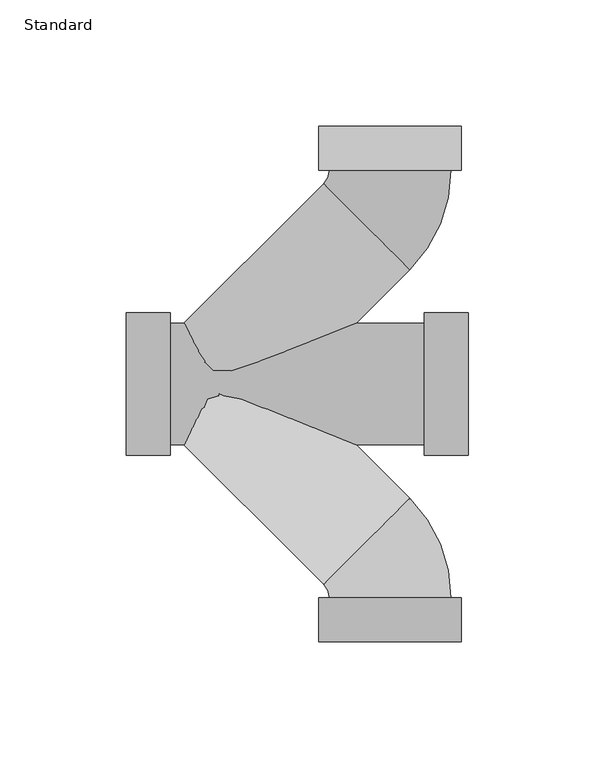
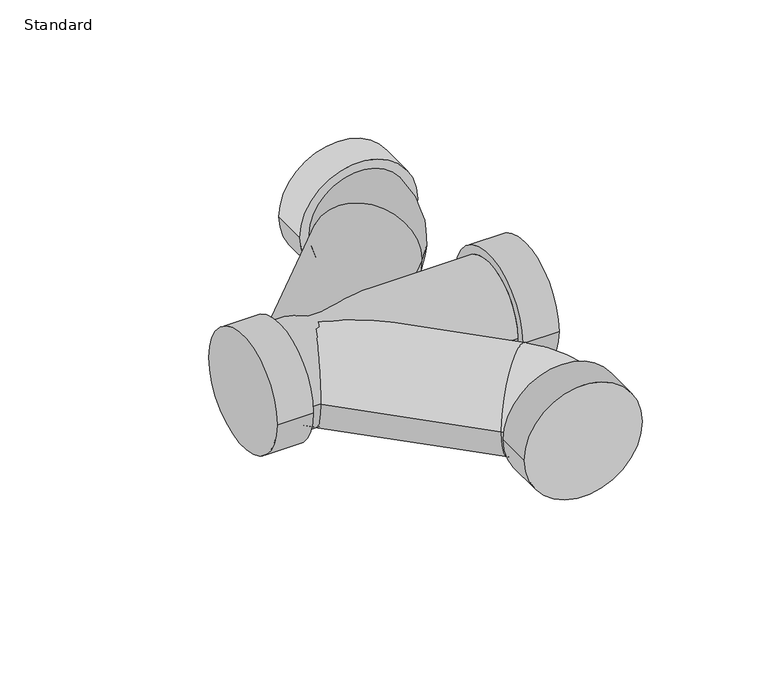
"""IFC4 building model written with IfcOpenShell, lengths in millimetres: pipe fitting geometry, GES Wye Combination with 8th Bend Double - PVC - Sch 40 - DWV : Standard."""

from ifc_helpers import new_model, si_unit, point, frame, origin, place, context, project, spatial, circle_curve, ellipse_curve, trimmed, source, transform, mapped, element, save
from ifc_brep_helpers import plane_surface, cylinder_surface, revolved_surface, advanced_brep


def standard_01f99a9c(model_context):
    return source(origin(), model_context, "Body", "AdvancedBrep", [
        advanced_brep(
        [(28.2829, 84.5312, 0.0), (-28.2829, 84.5312, 0.0), (28.2829, 101.981, 0.0), (-28.2829, 101.981, 0.0)],
        [
            (0, 1, circle_curve(frame((0.0, 84.5312, 0.0), z_axis=(0.0, -1.0, 0.0), x_axis=(-1.0, 0.0, 0.0)), 28.2829)),
            (1, 0, circle_curve(frame((0.0, 84.5312, 0.0), z_axis=(0.0, -1.0, 0.0), x_axis=(-1.0, 0.0, 0.0)), 28.2829)),
            (2, 3, circle_curve(frame((0.0, 101.981, 0.0), z_axis=(0.0, 1.0, 0.0), x_axis=(-1.0, 0.0, 0.0)), 28.2829)),
            (3, 2, circle_curve(frame((0.0, 101.981, 0.0), z_axis=(0.0, 1.0, 0.0), x_axis=(-1.0, 0.0, 0.0)), 28.2829)),
            (0, 2),
            (3, 1),
        ],
        [
            plane_surface(frame((0.0, 84.5312, 0.0), z_axis=(0.0, -1.0, 0.0), x_axis=(0.0, 0.0, 1.0))),
            plane_surface(frame((0.0, 101.981, 0.0), z_axis=(0.0, 1.0, 0.0), x_axis=(0.0, 0.0, 1.0))),
            cylinder_surface(frame((0.0, 84.5312, 0.0), z_axis=(0.0, -1.0, 0.0), x_axis=(-1.0, 0.0, 0.0)), 28.2829),
        ],
        [
            (0, [[1, 2]]),
            (1, [[3, 4]]),
            (2, [[-1, 5, -4, 6]]),
            (2, [[-2, -6, -3, -5]]),
        ],
    ),
        advanced_brep(
        [(-28.2829, -84.5312, 0.0), (28.2829, -84.5312, 0.0), (-28.2829, -101.981, 0.0), (28.2829, -101.981, 0.0)],
        [
            (0, 1, circle_curve(frame((0.0, -84.5312, 0.0), z_axis=(0.0, 1.0, 0.0), x_axis=(1.0, 0.0, 0.0)), 28.2829)),
            (1, 0, circle_curve(frame((0.0, -84.5312, 0.0), z_axis=(0.0, 1.0, 0.0), x_axis=(1.0, 0.0, 0.0)), 28.2829)),
            (2, 3, circle_curve(frame((0.0, -101.981, 0.0), z_axis=(0.0, -1.0, 0.0), x_axis=(1.0, 0.0, 0.0)), 28.2829)),
            (3, 2, circle_curve(frame((0.0, -101.981, 0.0), z_axis=(0.0, -1.0, 0.0), x_axis=(1.0, 0.0, 0.0)), 28.2829)),
            (0, 2),
            (3, 1),
        ],
        [
            plane_surface(frame((0.0, -84.5312, 0.0), z_axis=(0.0, 1.0, 0.0), x_axis=(0.0, 0.0, 1.0))),
            plane_surface(frame((0.0, -101.981, 0.0), z_axis=(0.0, -1.0, 0.0), x_axis=(0.0, 0.0, 1.0))),
            cylinder_surface(frame((0.0, -84.5312, 0.0), z_axis=(0.0, 1.0, 0.0), x_axis=(1.0, 0.0, 0.0)), 28.2829),
        ],
        [
            (0, [[1, 2]]),
            (1, [[3, 4]]),
            (2, [[-1, 5, -4, 6]]),
            (2, [[-2, -6, -3, -5]]),
        ],
    ),
        advanced_brep(
        [(-86.9188, -24.13, 0.0), (13.4874, -24.13, 0.0), (13.4874, 24.13, 0.0), (-86.9188, 24.13, 0.0), (-104.3686, -28.2829, 0.0), (-104.3686, 28.2829, 0.0), (-86.9188, -28.2829, 0.0), (-86.9188, 28.2829, 0.0), (13.4874, -28.2829, 0.0), (13.4874, 28.2829, 0.0), (30.9372, -28.2829, 0.0), (30.9372, 28.2829, 0.0)],
        [
            (0, 1),
            (1, 2, circle_curve(frame((13.4874, 0.0, 0.0), z_axis=(-1.0, 0.0, 0.0), x_axis=(0.0, 1.0, 0.0)), 24.13)),
            (2, 3),
            (3, 0, circle_curve(frame((-86.9188, 0.0, 0.0), z_axis=(1.0, 0.0, 0.0), x_axis=(0.0, 1.0, 0.0)), 24.13)),
            (0, 3, circle_curve(frame((-86.9188, 0.0, 0.0), z_axis=(1.0, 0.0, 0.0), x_axis=(0.0, 1.0, 0.0)), 24.13)),
            (2, 1, circle_curve(frame((13.4874, 0.0, 0.0), z_axis=(-1.0, 0.0, 0.0), x_axis=(0.0, 1.0, 0.0)), 24.13)),
            (4, 5, circle_curve(frame((-104.3686, 0.0, 0.0), z_axis=(-1.0, 0.0, 0.0), x_axis=(0.0, 1.0, 0.0)), 28.2829)),
            (5, 4, circle_curve(frame((-104.3686, 0.0, 0.0), z_axis=(-1.0, 0.0, 0.0), x_axis=(0.0, 1.0, 0.0)), 28.2829)),
            (6, 7, circle_curve(frame((-86.9188, 0.0, 0.0), z_axis=(1.0, 0.0, 0.0), x_axis=(0.0, 1.0, 0.0)), 28.2829)),
            (7, 6, circle_curve(frame((-86.9188, 0.0, 0.0), z_axis=(1.0, 0.0, 0.0), x_axis=(0.0, 1.0, 0.0)), 28.2829)),
            (4, 6),
            (7, 5),
            (8, 9, circle_curve(frame((13.4874, 0.0, 0.0), z_axis=(-1.0, 0.0, 0.0), x_axis=(0.0, 1.0, 0.0)), 28.2829)),
            (9, 8, circle_curve(frame((13.4874, 0.0, 0.0), z_axis=(-1.0, 0.0, 0.0), x_axis=(0.0, 1.0, 0.0)), 28.2829)),
            (10, 11, circle_curve(frame((30.9372, 0.0, 0.0), z_axis=(1.0, 0.0, 0.0), x_axis=(0.0, 1.0, 0.0)), 28.2829)),
            (11, 10, circle_curve(frame((30.9372, 0.0, 0.0), z_axis=(1.0, 0.0, 0.0), x_axis=(0.0, 1.0, 0.0)), 28.2829)),
            (8, 10),
            (11, 9),
        ],
        [
            cylinder_surface(frame((-86.9188, 0.0, 0.0), z_axis=(-1.0, 0.0, 0.0), x_axis=(0.0, 1.0, 0.0)), 24.13),
            plane_surface(frame((-104.3686, 0.0, 0.0), z_axis=(-1.0, 0.0, 0.0), x_axis=(0.0, 0.0, 1.0))),
            plane_surface(frame((-86.9188, 0.0, 0.0), z_axis=(1.0, 0.0, 0.0), x_axis=(0.0, 0.0, 1.0))),
            cylinder_surface(frame((-104.3686, 0.0, 0.0), z_axis=(-1.0, 0.0, 0.0), x_axis=(0.0, 1.0, 0.0)), 28.2829),
            plane_surface(frame((13.4874, 0.0, 0.0), z_axis=(-1.0, 0.0, 0.0), x_axis=(0.0, 0.0, 1.0))),
            plane_surface(frame((30.9372, 0.0, 0.0), z_axis=(1.0, 0.0, 0.0), x_axis=(0.0, 0.0, 1.0))),
            cylinder_surface(frame((13.4874, 0.0, 0.0), z_axis=(-1.0, 0.0, 0.0), x_axis=(0.0, 1.0, 0.0)), 28.2829),
        ],
        [
            (0, [[1, 2, 3, 4]]),
            (0, [[-1, 5, -3, 6]]),
            (1, [[7, 8]]),
            (2, [[9, 10], [-4, -5]]),
            (3, [[-7, 11, -10, 12]]),
            (3, [[-8, -12, -9, -11]]),
            (4, [[13, 14], [-2, -6]]),
            (5, [[15, 16]]),
            (6, [[-13, 17, -16, 18]]),
            (6, [[-14, -18, -15, -17]]),
        ],
    ),
        advanced_brep(
        [(-24.13, 84.5312, 0.0), (24.13, 84.5312, 0.0), (7.848681, 45.224619, 0.0), (-26.2762922, 79.3495922, 0.0), (-88.5633978, 17.0624866, 0.0), (-54.4384245, -17.0624866, 0.0)],
        [
            (0, 1, circle_curve(frame((0.0, 84.5312, 0.0), z_axis=(-1.7109647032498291e-12, 1.0, 0.0), x_axis=(1.0, 1.7109647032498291e-12, 0.0)), 24.13)),
            (1, 0, circle_curve(frame((0.0, 84.5312, 0.0), z_axis=(-1.7109647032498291e-12, 1.0, 0.0), x_axis=(1.0, 1.7109647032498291e-12, 0.0)), 24.13)),
            (2, 1, circle_curve(frame((-31.4579, 84.5312, 0.0), z_axis=(0.0, 0.0, 1.0), x_axis=(1.0, 1.7109126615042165e-12, 0.0)), 55.5879)),
            (0, 3, circle_curve(frame((-31.4579, 84.5312, 0.0), z_axis=(0.0, 0.0, -1.0), x_axis=(1.0, 1.7109126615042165e-12, 0.0)), 7.3279)),
            (3, 2, circle_curve(frame((-9.2138056, 62.2871056, 0.0), z_axis=(0.7071067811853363, 0.7071067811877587, 0.0), x_axis=(0.7071067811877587, -0.7071067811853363, 0.0)), 24.13)),
            (2, 3, circle_curve(frame((-9.2138056, 62.2871056, 0.0), z_axis=(0.7071067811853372, 0.7071067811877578, 0.0), x_axis=(0.7071067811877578, -0.7071067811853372, 0.0)), 24.13)),
            (4, 5, circle_curve(frame((-71.5009112, 0.0, 0.0), z_axis=(-0.7071067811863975, -0.7071067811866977, 0.0), x_axis=(0.7071067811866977, -0.7071067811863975, 0.0)), 24.13)),
            (5, 4, circle_curve(frame((-71.5009112, 0.0, 0.0), z_axis=(-0.7071067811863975, -0.7071067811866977, 0.0), x_axis=(0.7071067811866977, -0.7071067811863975, 0.0)), 24.13)),
            (3, 4),
            (5, 2),
        ],
        [
            plane_surface(frame((0.0, 84.5312, 0.0), z_axis=(-1.7109647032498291e-12, 1.0, 0.0), x_axis=(0.0, 0.0, 1.0))),
            revolved_surface(trimmed(ellipse_curve(frame((0.0, 84.5312, 0.0), z_axis=(-1.7109647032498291e-12, 1.0, 0.0), x_axis=(1.0, 1.7109647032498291e-12, 0.0)), 24.13, 24.13), [point((-24.13, 84.5312, 0.0))], [point((24.13, 84.5312, 0.0))], True, "CARTESIAN"), (-31.4579, 84.5312, 0.0), (0.0, 0.0, -1.0)),
            revolved_surface(trimmed(ellipse_curve(frame((0.0, 84.5312, 0.0), z_axis=(-1.7109647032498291e-12, 1.0, 0.0), x_axis=(1.0, 1.7109647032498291e-12, 0.0)), 24.13, 24.13), [point((24.13, 84.5312, 0.0))], [point((-24.13, 84.5312, 0.0))], True, "CARTESIAN"), (-31.4579, 84.5312, 0.0), (0.0, 0.0, -1.0)),
            plane_surface(frame((-71.5009112, 0.0, 0.0), z_axis=(-0.7071067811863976, -0.7071067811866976, 0.0), x_axis=(0.0, 0.0, 1.0))),
            cylinder_surface(frame((-9.2138056, 62.2871056, 0.0), z_axis=(0.7071067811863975, 0.7071067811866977, 0.0), x_axis=(0.7071067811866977, -0.7071067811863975, 0.0)), 24.13),
        ],
        [
            (0, [[1, 2]]),
            (1, [[3, -1, 4, 5]]),
            (2, [[-4, -2, -3, 6]]),
            (3, [[7, 8]]),
            (4, [[-5, 9, -8, 10]]),
            (4, [[-6, -10, -7, -9]]),
        ],
    ),
        advanced_brep(
        [(24.13, -84.5312, 0.0), (-24.13, -84.5312, 0.0), (-26.2762922, -79.3495922, 0.0), (7.848681, -45.224619, 0.0), (-54.4384245, 17.0624866, 0.0), (-88.5633978, -17.0624866, 0.0)],
        [
            (0, 1, circle_curve(frame((0.0, -84.5312, 0.0), z_axis=(0.0, -1.0, 0.0), x_axis=(-1.0, 0.0, 0.0)), 24.13)),
            (1, 0, circle_curve(frame((0.0, -84.5312, 0.0), z_axis=(0.0, -1.0, 0.0), x_axis=(-1.0, 0.0, 0.0)), 24.13)),
            (2, 1, circle_curve(frame((-31.4579, -84.5312, 0.0), z_axis=(0.0, 0.0, -1.0), x_axis=(1.0, 0.0, 0.0)), 7.3279)),
            (0, 3, circle_curve(frame((-31.4579, -84.5312, 0.0), z_axis=(0.0, 0.0, 1.0), x_axis=(1.0, 0.0, 0.0)), 55.5879)),
            (3, 2, circle_curve(frame((-9.2138056, -62.2871056, 0.0), z_axis=(0.70710678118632, -0.7071067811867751, 0.0), x_axis=(-0.7071067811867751, -0.70710678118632, 0.0)), 24.13)),
            (2, 3, circle_curve(frame((-9.2138056, -62.2871056, 0.0), z_axis=(0.7071067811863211, -0.7071067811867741, 0.0), x_axis=(-0.7071067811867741, -0.7071067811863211, 0.0)), 24.13)),
            (4, 5, circle_curve(frame((-71.5009112, 0.0, 0.0), z_axis=(-0.7071067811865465, 0.7071067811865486, 0.0), x_axis=(-0.7071067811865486, -0.7071067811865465, 0.0)), 24.13)),
            (5, 4, circle_curve(frame((-71.5009112, 0.0, 0.0), z_axis=(-0.7071067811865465, 0.7071067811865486, 0.0), x_axis=(-0.7071067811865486, -0.7071067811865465, 0.0)), 24.13)),
            (3, 4),
            (5, 2),
        ],
        [
            plane_surface(frame((0.0, -84.5312, 0.0), z_axis=(0.0, -1.0, 0.0), x_axis=(0.0, 0.0, 1.0))),
            revolved_surface(trimmed(ellipse_curve(frame((0.0, -84.5312, 0.0), z_axis=(0.0, -1.0, 0.0), x_axis=(-1.0, 0.0, 0.0)), 24.13, 24.13), [point((24.13, -84.5312, 0.0))], [point((-24.13, -84.5312, 0.0))], True, "CARTESIAN"), (-31.4579, -84.5312, 0.0), (0.0, 0.0, 1.0)),
            revolved_surface(trimmed(ellipse_curve(frame((0.0, -84.5312, 0.0), z_axis=(0.0, -1.0, 0.0), x_axis=(-1.0, 0.0, 0.0)), 24.13, 24.13), [point((-24.13, -84.5312, 0.0))], [point((24.13, -84.5312, 0.0))], True, "CARTESIAN"), (-31.4579, -84.5312, 0.0), (0.0, 0.0, 1.0)),
            plane_surface(frame((-71.5009112, 0.0, 0.0), z_axis=(-0.7071067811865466, 0.7071067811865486, 0.0), x_axis=(0.0, 0.0, 1.0))),
            cylinder_surface(frame((-9.2138056, -62.2871056, 0.0), z_axis=(0.7071067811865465, -0.7071067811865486, 0.0), x_axis=(-0.7071067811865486, -0.7071067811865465, 0.0)), 24.13),
        ],
        [
            (0, [[1, 2]]),
            (1, [[3, -1, 4, 5]]),
            (2, [[-4, -2, -3, 6]]),
            (3, [[7, 8]]),
            (4, [[-5, 9, -8, 10]]),
            (4, [[-6, -10, -7, -9]]),
        ],
    ),
    ])


if __name__ == "__main__":
    model = new_model("IFC4")
    model_context = context("Model", 3, world=origin())
    ifc_project = project(units=[si_unit("LENGTHUNIT", "METRE", prefix="MILLI")], contexts=[model_context])
    site = spatial("IfcSite", under=ifc_project)
    building = spatial("IfcBuilding", under=site)
    placement = place(None, origin())
    standard_shape = standard_01f99a9c(model_context)
    element("IfcPipeFitting", 1, ObjectType="GES Wye Combination with 8th Bend Double - PVC - Sch 40 - DWV : Standard", at=placement, inside=building, context=model_context, shape_type="MappedRepresentation", body=[
        mapped(standard_shape, transform((0.0, 0.0, 0.0), x_axis=(1.0, 0.0, 0.0), y_axis=(0.0, 1.0, 0.0), z_axis=(0.0, 0.0, 1.0))),
    ])
    save(model, "model.ifc")
